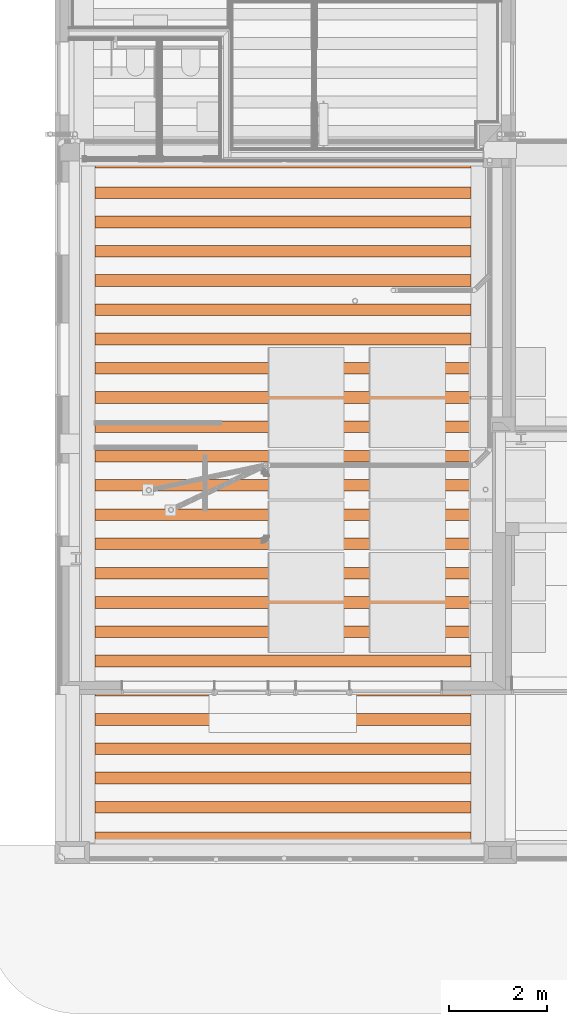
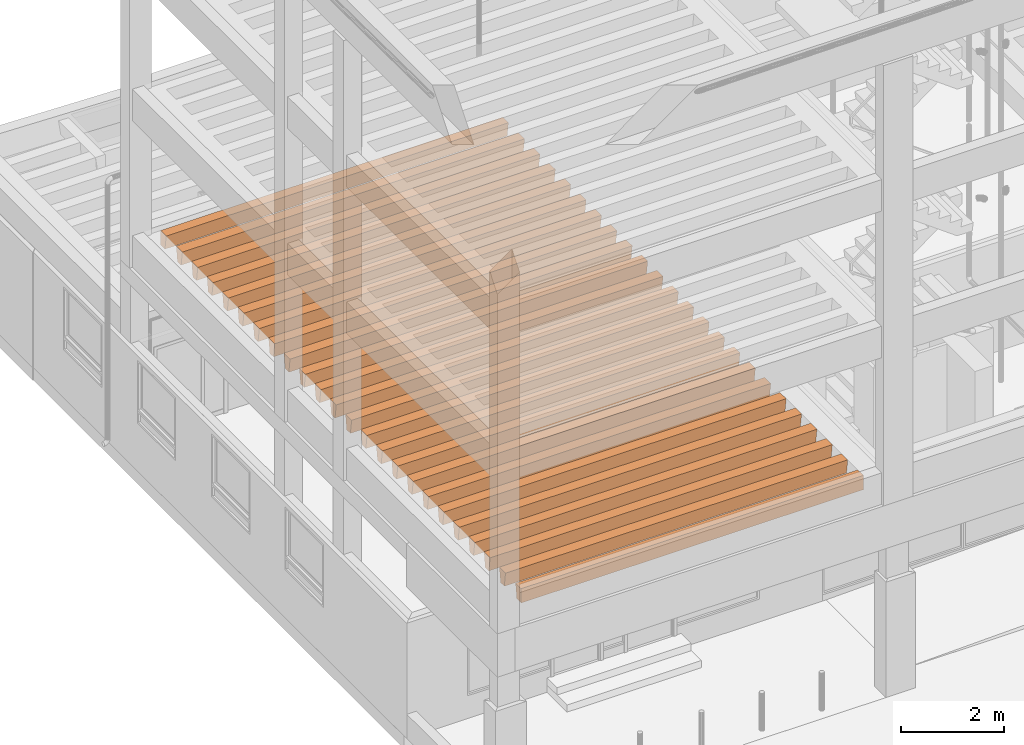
# One storey, part 106 of 108: 1 proxy.
"""IFC2X3 building model written with IfcOpenShell, lengths in metres."""

from ifc_helpers import new_model, entity, si_unit, converted_unit, derived_unit, money_unit, direction, frame, origin_with_axes, place, context, subcontext, project, spatial, faceted_brep, element, save


model = new_model("IFC2X3")

# Units and contexts
model_context = context("Model", 3, precision=1e-05, world=origin_with_axes(), true_north=direction((0.0, 1.0)))
body_context = subcontext(model_context, "Body", "Model", "MODEL_VIEW", scale=1.0)
ifc_project = project(units=[si_unit("LENGTHUNIT", "METRE"), si_unit("AREAUNIT", "SQUARE_METRE"), si_unit("VOLUMEUNIT", "CUBIC_METRE"), si_unit("ABSORBEDDOSEUNIT", "GRAY"), si_unit("AMOUNTOFSUBSTANCEUNIT", "MOLE"), si_unit("DOSEEQUIVALENTUNIT", "SIEVERT"), si_unit("ELECTRICCAPACITANCEUNIT", "FARAD"), si_unit("ELECTRICCHARGEUNIT", "COULOMB"), si_unit("ELECTRICCONDUCTANCEUNIT", "SIEMENS"), si_unit("ELECTRICCURRENTUNIT", "AMPERE"), si_unit("ELECTRICRESISTANCEUNIT", "OHM"), si_unit("ELECTRICVOLTAGEUNIT", "VOLT"), si_unit("ENERGYUNIT", "JOULE"), si_unit("FORCEUNIT", "NEWTON"), si_unit("FREQUENCYUNIT", "HERTZ"), si_unit("ILLUMINANCEUNIT", "LUX"), si_unit("INDUCTANCEUNIT", "HENRY"), si_unit("LUMINOUSFLUXUNIT", "LUMEN"), si_unit("LUMINOUSINTENSITYUNIT", "CANDELA"), si_unit("MAGNETICFLUXDENSITYUNIT", "TESLA"), si_unit("MAGNETICFLUXUNIT", "WEBER"), si_unit("MASSUNIT", "GRAM"), converted_unit("PLANEANGLEUNIT", "degree", entity("IfcReal", 0.0174532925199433), si_unit("PLANEANGLEUNIT", "RADIAN"), dimensions=[0, 0, 0, 0, 0, 0, 0]), si_unit("POWERUNIT", "WATT"), si_unit("PRESSUREUNIT", "PASCAL"), si_unit("RADIOACTIVITYUNIT", "BECQUEREL"), si_unit("SOLIDANGLEUNIT", "STERADIAN"), si_unit("THERMODYNAMICTEMPERATUREUNIT", "KELVIN"), si_unit("TIMEUNIT", "SECOND"), derived_unit("ACCELERATIONUNIT", [(si_unit("LENGTHUNIT", "METRE"), 1), (si_unit("TIMEUNIT", "SECOND"), -2)]), derived_unit("ANGULARVELOCITYUNIT", [(converted_unit("PLANEANGLEUNIT", "degree", entity("IfcReal", 0.0174532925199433), si_unit("PLANEANGLEUNIT", "RADIAN"), dimensions=[0, 0, 0, 0, 0, 0, 0]), 1), (si_unit("TIMEUNIT", "SECOND"), -1)]), derived_unit("CURVATUREUNIT", [(converted_unit("PLANEANGLEUNIT", "degree", entity("IfcReal", 0.0174532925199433), si_unit("PLANEANGLEUNIT", "RADIAN"), dimensions=[0, 0, 0, 0, 0, 0, 0]), 1), (si_unit("LENGTHUNIT", "METRE"), -1)]), derived_unit("DYNAMICVISCOSITYUNIT", [(si_unit("PRESSUREUNIT", "PASCAL"), 1), (si_unit("TIMEUNIT", "SECOND"), 1)]), derived_unit("HEATFLUXDENSITYUNIT", [(si_unit("POWERUNIT", "WATT"), 1), (si_unit("LENGTHUNIT", "METRE"), -2)]), derived_unit("HEATINGVALUEUNIT", [(si_unit("ENERGYUNIT", "JOULE"), 1), (si_unit("MASSUNIT", "GRAM"), -1)]), derived_unit("INTEGERCOUNTRATEUNIT", [(si_unit("TIMEUNIT", "SECOND"), -1)]), derived_unit("IONCONCENTRATIONUNIT", [(si_unit("MASSUNIT", "GRAM"), 1), (si_unit("VOLUMEUNIT", "CUBIC_METRE"), -1)]), derived_unit("ISOTHERMALMOISTURECAPACITYUNIT", [(si_unit("VOLUMEUNIT", "CUBIC_METRE"), 1), (si_unit("MASSUNIT", "GRAM"), -1)]), derived_unit("KINEMATICVISCOSITYUNIT", [(si_unit("AREAUNIT", "SQUARE_METRE"), 1), (si_unit("TIMEUNIT", "SECOND"), -1)]), derived_unit("LINEARFORCEUNIT", [(si_unit("FORCEUNIT", "NEWTON"), 1), (si_unit("LENGTHUNIT", "METRE"), -1)]), derived_unit("LINEARMOMENTUNIT", [(si_unit("FORCEUNIT", "NEWTON"), 1), (si_unit("LENGTHUNIT", "METRE"), -1)]), derived_unit("LINEARSTIFFNESSUNIT", [(si_unit("FORCEUNIT", "NEWTON"), 1), (si_unit("LENGTHUNIT", "METRE"), -1)]), derived_unit("LINEARVELOCITYUNIT", [(si_unit("LENGTHUNIT", "METRE"), 1), (si_unit("TIMEUNIT", "SECOND"), -1)]), derived_unit("LUMINOUSINTENSITYDISTRIBUTIONUNIT", [(si_unit("LUMINOUSINTENSITYUNIT", "CANDELA"), 1), (si_unit("LUMINOUSFLUXUNIT", "LUMEN"), -1)]), derived_unit("MASSDENSITYUNIT", [(si_unit("MASSUNIT", "GRAM"), 1), (si_unit("VOLUMEUNIT", "CUBIC_METRE"), -1)]), derived_unit("MASSFLOWRATEUNIT", [(si_unit("MASSUNIT", "GRAM"), 1), (si_unit("TIMEUNIT", "SECOND"), -1)]), derived_unit("MASSPERLENGTHUNIT", [(si_unit("MASSUNIT", "GRAM"), 1), (si_unit("LENGTHUNIT", "METRE"), -1)]), derived_unit("MODULUSOFELASTICITYUNIT", [(si_unit("FORCEUNIT", "NEWTON"), 1), (si_unit("AREAUNIT", "SQUARE_METRE"), -1)]), derived_unit("MODULUSOFLINEARSUBGRADEREACTIONUNIT", [(si_unit("FORCEUNIT", "NEWTON"), 1), (si_unit("LENGTHUNIT", "METRE"), -2)]), derived_unit("MODULUSOFROTATIONALSUBGRADEREACTIONUNIT", [(si_unit("FORCEUNIT", "NEWTON"), 1), (si_unit("LENGTHUNIT", "METRE"), 1)]), derived_unit("MODULUSOFSUBGRADEREACTIONUNIT", [(si_unit("FORCEUNIT", "NEWTON"), 1), (si_unit("VOLUMEUNIT", "CUBIC_METRE"), -1)]), derived_unit("MOISTUREDIFFUSIVITYUNIT", [(si_unit("VOLUMEUNIT", "CUBIC_METRE"), 1), (si_unit("TIMEUNIT", "SECOND"), -1)]), derived_unit("MOLECULARWEIGHTUNIT", [(si_unit("MASSUNIT", "GRAM"), 1), (si_unit("AMOUNTOFSUBSTANCEUNIT", "MOLE"), -1)]), derived_unit("PLANARFORCEUNIT", [(si_unit("FORCEUNIT", "NEWTON"), 1), (si_unit("LENGTHUNIT", "METRE"), -2)]), derived_unit("ROTATIONALFREQUENCYUNIT", [(si_unit("TIMEUNIT", "SECOND"), -1)]), derived_unit("ROTATIONALMASSUNIT", [(si_unit("MASSUNIT", "GRAM"), 1), (si_unit("LENGTHUNIT", "METRE"), 2)]), derived_unit("ROTATIONALSTIFFNESSUNIT", [(si_unit("FORCEUNIT", "NEWTON"), 1), (si_unit("LENGTHUNIT", "METRE"), 1), (converted_unit("PLANEANGLEUNIT", "degree", entity("IfcReal", 0.0174532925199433), si_unit("PLANEANGLEUNIT", "RADIAN"), dimensions=[0, 0, 0, 0, 0, 0, 0]), -1)]), derived_unit("SECTIONAREAINTEGRALUNIT", [(si_unit("LENGTHUNIT", "METRE"), 5)]), derived_unit("SECTIONMODULUSUNIT", [(si_unit("LENGTHUNIT", "METRE"), 3)]), derived_unit("SHEARMODULUSUNIT", [(si_unit("FORCEUNIT", "NEWTON"), 1), (si_unit("AREAUNIT", "SQUARE_METRE"), -1)]), derived_unit("SOUNDPOWERUNIT", [(si_unit("ENERGYUNIT", "JOULE"), 1), (si_unit("TIMEUNIT", "SECOND"), -1)]), derived_unit("SPECIFICHEATCAPACITYUNIT", [(si_unit("FORCEUNIT", "NEWTON"), 1), (si_unit("MASSUNIT", "GRAM"), -1), (si_unit("THERMODYNAMICTEMPERATUREUNIT", "KELVIN"), -1)]), derived_unit("TEMPERATUREGRADIENTUNIT", [(si_unit("THERMODYNAMICTEMPERATUREUNIT", "KELVIN"), 1), (si_unit("LENGTHUNIT", "METRE"), -1)]), derived_unit("THERMALADMITTANCEUNIT", [(si_unit("POWERUNIT", "WATT"), 1), (si_unit("AREAUNIT", "SQUARE_METRE"), -1), (si_unit("THERMODYNAMICTEMPERATUREUNIT", "KELVIN"), -1)]), derived_unit("THERMALCONDUCTANCEUNIT", [(si_unit("POWERUNIT", "WATT"), 1), (si_unit("LENGTHUNIT", "METRE"), -1), (si_unit("THERMODYNAMICTEMPERATUREUNIT", "KELVIN"), -1)]), derived_unit("THERMALEXPANSIONCOEFFICIENTUNIT", [(si_unit("THERMODYNAMICTEMPERATUREUNIT", "KELVIN"), -1)]), derived_unit("THERMALRESISTANCEUNIT", [(si_unit("AREAUNIT", "SQUARE_METRE"), 1), (si_unit("POWERUNIT", "WATT"), -1)]), derived_unit("THERMALTRANSMITTANCEUNIT", [(si_unit("POWERUNIT", "WATT"), 1), (si_unit("AREAUNIT", "SQUARE_METRE"), -1), (si_unit("THERMODYNAMICTEMPERATUREUNIT", "KELVIN"), -1)]), derived_unit("TORQUEUNIT", [(si_unit("FORCEUNIT", "NEWTON"), 1), (si_unit("LENGTHUNIT", "METRE"), 1)]), derived_unit("VAPORPERMEABILITYUNIT", [(si_unit("MASSUNIT", "GRAM"), 1), (si_unit("TIMEUNIT", "SECOND"), -1)]), derived_unit("VOLUMETRICFLOWRATEUNIT", [(si_unit("VOLUMEUNIT", "CUBIC_METRE"), 1), (si_unit("TIMEUNIT", "SECOND"), -1)]), derived_unit("WARPINGCONSTANTUNIT", [(si_unit("LENGTHUNIT", "METRE"), 6)]), derived_unit("WARPINGMOMENTUNIT", [(si_unit("FORCEUNIT", "NEWTON"), 1), (si_unit("LENGTHUNIT", "METRE"), 2)]), money_unit("GBP")], contexts=[model_context])

# Site, building, storey
site_placement = place(None, origin_with_axes())
site = spatial("IfcSite", under=ifc_project, at=site_placement, Name="Site", CompositionType="ELEMENT")
building_placement = place(site_placement, origin_with_axes())
building = spatial("IfcBuilding", under=site, at=building_placement, Name="Building01", CompositionType="ELEMENT")
storey_placement = place(building_placement, origin_with_axes())
storey = spatial("IfcBuildingStorey", under=building, at=storey_placement, Name="GF", CompositionType="ELEMENT", Elevation=0.0)

# Proxy
proxy_placement = place(storey_placement, frame((4.6725, 7.45, 4.81), z_axis=(0.0, 0.0, 1.0), x_axis=(1.0, 0.0, 0.0)))
element("IfcBuildingElementProxy", 1, at=proxy_placement, inside=storey, context=body_context, shape_type="Brep", body=[
    faceted_brep([(-3.8525, -7.03, -0.17), (3.8525, -7.03, -0.17), (3.8525, -7.03, 0.17), (-3.8525, -7.03, 0.17), (-3.8525, -6.858571, -0.17), (3.8525, -6.858571, -0.17), (-3.8525, -6.81, 0.17), (3.8525, -6.81, 0.17)], [[[0, 1, 2, 3]], [[4, 5, 1, 0]], [[6, 7, 5, 4]], [[3, 2, 7, 6]], [[1, 5, 7, 2]], [[3, 6, 4, 0]]]),
    faceted_brep([(-3.8525, 7.03, 0.17), (3.8525, 7.03, 0.17), (3.8525, 7.03, -0.17), (-3.8525, 7.03, -0.17), (-3.8525, 6.81, 0.17), (3.8525, 6.81, 0.17), (-3.8525, 6.858572, -0.17), (3.8525, 6.858572, -0.17)], [[[0, 1, 2, 3]], [[4, 5, 1, 0]], [[6, 7, 5, 4]], [[3, 2, 7, 6]], [[1, 5, 7, 2]], [[3, 6, 4, 0]]]),
    faceted_brep([(-3.8525, 5.028572, -0.17), (3.8525, 5.028572, -0.17), (3.8525, 4.98, 0.17), (-3.8525, 4.98, 0.17), (-3.8525, 5.171429, -0.17), (3.8525, 5.171429, -0.17), (-3.8525, 5.22, 0.17), (3.8525, 5.22, 0.17)], [[[0, 1, 2, 3]], [[4, 5, 1, 0]], [[6, 7, 5, 4]], [[3, 2, 7, 6]], [[1, 5, 7, 2]], [[3, 6, 4, 0]]]),
    faceted_brep([(-3.8525, 4.428572, -0.17), (3.8525, 4.428572, -0.17), (3.8525, 4.38, 0.17), (-3.8525, 4.38, 0.17), (-3.8525, 4.571429, -0.17), (3.8525, 4.571429, -0.17), (-3.8525, 4.62, 0.17), (3.8525, 4.62, 0.17)], [[[0, 1, 2, 3]], [[4, 5, 1, 0]], [[6, 7, 5, 4]], [[3, 2, 7, 6]], [[1, 5, 7, 2]], [[3, 6, 4, 0]]]),
    faceted_brep([(-3.8525, 6.228572, -0.17), (3.8525, 6.228572, -0.17), (3.8525, 6.18, 0.17), (-3.8525, 6.18, 0.17), (-3.8525, 6.371429, -0.17), (3.8525, 6.371429, -0.17), (-3.8525, 6.42, 0.17), (3.8525, 6.42, 0.17)], [[[0, 1, 2, 3]], [[4, 5, 1, 0]], [[6, 7, 5, 4]], [[3, 2, 7, 6]], [[1, 5, 7, 2]], [[3, 6, 4, 0]]]),
    faceted_brep([(-3.8525, 5.628572, -0.17), (3.8525, 5.628572, -0.17), (3.8525, 5.58, 0.17), (-3.8525, 5.58, 0.17), (-3.8525, 5.771429, -0.17), (3.8525, 5.771429, -0.17), (-3.8525, 5.82, 0.17), (3.8525, 5.82, 0.17)], [[[0, 1, 2, 3]], [[4, 5, 1, 0]], [[6, 7, 5, 4]], [[3, 2, 7, 6]], [[1, 5, 7, 2]], [[3, 6, 4, 0]]]),
    faceted_brep([(-3.8525, 3.228572, -0.17), (3.8525, 3.228572, -0.17), (3.8525, 3.18, 0.17), (-3.8525, 3.18, 0.17), (-3.8525, 3.371429, -0.17), (3.8525, 3.371429, -0.17), (-3.8525, 3.42, 0.17), (3.8525, 3.42, 0.17)], [[[0, 1, 2, 3]], [[4, 5, 1, 0]], [[6, 7, 5, 4]], [[3, 2, 7, 6]], [[1, 5, 7, 2]], [[3, 6, 4, 0]]]),
    faceted_brep([(-3.8525, 2.628572, -0.17), (3.8525, 2.628572, -0.17), (3.8525, 2.58, 0.17), (-3.8525, 2.58, 0.17), (-3.8525, 2.771429, -0.17), (3.8525, 2.771429, -0.17), (-3.8525, 2.82, 0.17), (3.8525, 2.82, 0.17)], [[[0, 1, 2, 3]], [[4, 5, 1, 0]], [[6, 7, 5, 4]], [[3, 2, 7, 6]], [[1, 5, 7, 2]], [[3, 6, 4, 0]]]),
    faceted_brep([(-3.8525, 3.828572, -0.17), (3.8525, 3.828572, -0.17), (3.8525, 3.78, 0.17), (-3.8525, 3.78, 0.17), (-3.8525, 3.971429, -0.17), (3.8525, 3.971429, -0.17), (-3.8525, 4.02, 0.17), (3.8525, 4.02, 0.17)], [[[0, 1, 2, 3]], [[4, 5, 1, 0]], [[6, 7, 5, 4]], [[3, 2, 7, 6]], [[1, 5, 7, 2]], [[3, 6, 4, 0]]]),
    faceted_brep([(-3.8525, 1.428572, -0.17), (3.8525, 1.428572, -0.17), (3.8525, 1.38, 0.17), (-3.8525, 1.38, 0.17), (-3.8525, 1.571429, -0.17), (3.8525, 1.571429, -0.17), (-3.8525, 1.62, 0.17), (3.8525, 1.62, 0.17)], [[[0, 1, 2, 3]], [[4, 5, 1, 0]], [[6, 7, 5, 4]], [[3, 2, 7, 6]], [[1, 5, 7, 2]], [[3, 6, 4, 0]]]),
    faceted_brep([(-3.8525, 0.828572, -0.17), (3.8525, 0.828572, -0.17), (3.8525, 0.78, 0.17), (-3.8525, 0.78, 0.17), (-3.8525, 0.971429, -0.17), (3.8525, 0.971429, -0.17), (-3.8525, 1.02, 0.17), (3.8525, 1.02, 0.17)], [[[0, 1, 2, 3]], [[4, 5, 1, 0]], [[6, 7, 5, 4]], [[3, 2, 7, 6]], [[1, 5, 7, 2]], [[3, 6, 4, 0]]]),
    faceted_brep([(-3.8525, 2.028572, -0.17), (3.8525, 2.028572, -0.17), (3.8525, 1.98, 0.17), (-3.8525, 1.98, 0.17), (-3.8525, 2.171429, -0.17), (3.8525, 2.171429, -0.17), (-3.8525, 2.22, 0.17), (3.8525, 2.22, 0.17)], [[[0, 1, 2, 3]], [[4, 5, 1, 0]], [[6, 7, 5, 4]], [[3, 2, 7, 6]], [[1, 5, 7, 2]], [[3, 6, 4, 0]]]),
    faceted_brep([(-3.8525, -0.371428, -0.17), (3.8525, -0.371428, -0.17), (3.8525, -0.42, 0.17), (-3.8525, -0.42, 0.17), (-3.8525, -0.228571, -0.17), (3.8525, -0.228571, -0.17), (-3.8525, -0.18, 0.17), (3.8525, -0.18, 0.17)], [[[0, 1, 2, 3]], [[4, 5, 1, 0]], [[6, 7, 5, 4]], [[3, 2, 7, 6]], [[1, 5, 7, 2]], [[3, 6, 4, 0]]]),
    faceted_brep([(-3.8525, -0.971428, -0.17), (3.8525, -0.971428, -0.17), (3.8525, -1.02, 0.17), (-3.8525, -1.02, 0.17), (-3.8525, -0.828571, -0.17), (3.8525, -0.828571, -0.17), (-3.8525, -0.78, 0.17), (3.8525, -0.78, 0.17)], [[[0, 1, 2, 3]], [[4, 5, 1, 0]], [[6, 7, 5, 4]], [[3, 2, 7, 6]], [[1, 5, 7, 2]], [[3, 6, 4, 0]]]),
    faceted_brep([(-3.8525, 0.228572, -0.17), (3.8525, 0.228572, -0.17), (3.8525, 0.18, 0.17), (-3.8525, 0.18, 0.17), (-3.8525, 0.371429, -0.17), (3.8525, 0.371429, -0.17), (-3.8525, 0.42, 0.17), (3.8525, 0.42, 0.17)], [[[0, 1, 2, 3]], [[4, 5, 1, 0]], [[6, 7, 5, 4]], [[3, 2, 7, 6]], [[1, 5, 7, 2]], [[3, 6, 4, 0]]]),
    faceted_brep([(-3.8525, -2.171428, -0.17), (3.8525, -2.171428, -0.17), (3.8525, -2.22, 0.17), (-3.8525, -2.22, 0.17), (-3.8525, -2.028571, -0.17), (3.8525, -2.028571, -0.17), (-3.8525, -1.98, 0.17), (3.8525, -1.98, 0.17)], [[[0, 1, 2, 3]], [[4, 5, 1, 0]], [[6, 7, 5, 4]], [[3, 2, 7, 6]], [[1, 5, 7, 2]], [[3, 6, 4, 0]]]),
    faceted_brep([(-3.8525, -2.771428, -0.17), (3.8525, -2.771428, -0.17), (3.8525, -2.82, 0.17), (-3.8525, -2.82, 0.17), (-3.8525, -2.628571, -0.17), (3.8525, -2.628571, -0.17), (-3.8525, -2.58, 0.17), (3.8525, -2.58, 0.17)], [[[0, 1, 2, 3]], [[4, 5, 1, 0]], [[6, 7, 5, 4]], [[3, 2, 7, 6]], [[1, 5, 7, 2]], [[3, 6, 4, 0]]]),
    faceted_brep([(-3.8525, -1.571428, -0.17), (3.8525, -1.571428, -0.17), (3.8525, -1.62, 0.17), (-3.8525, -1.62, 0.17), (-3.8525, -1.428571, -0.17), (3.8525, -1.428571, -0.17), (-3.8525, -1.38, 0.17), (3.8525, -1.38, 0.17)], [[[0, 1, 2, 3]], [[4, 5, 1, 0]], [[6, 7, 5, 4]], [[3, 2, 7, 6]], [[1, 5, 7, 2]], [[3, 6, 4, 0]]]),
    faceted_brep([(-3.8525, -3.971428, -0.17), (3.8525, -3.971428, -0.17), (3.8525, -4.02, 0.17), (-3.8525, -4.02, 0.17), (-3.8525, -3.828571, -0.17), (3.8525, -3.828571, -0.17), (-3.8525, -3.78, 0.17), (3.8525, -3.78, 0.17)], [[[0, 1, 2, 3]], [[4, 5, 1, 0]], [[6, 7, 5, 4]], [[3, 2, 7, 6]], [[1, 5, 7, 2]], [[3, 6, 4, 0]]]),
    faceted_brep([(-3.8525, -4.571428, -0.17), (3.8525, -4.571428, -0.17), (3.8525, -4.62, 0.17), (-3.8525, -4.62, 0.17), (-3.8525, -4.428571, -0.17), (3.8525, -4.428571, -0.17), (-3.8525, -4.38, 0.17), (3.8525, -4.38, 0.17)], [[[0, 1, 2, 3]], [[4, 5, 1, 0]], [[6, 7, 5, 4]], [[3, 2, 7, 6]], [[1, 5, 7, 2]], [[3, 6, 4, 0]]]),
    faceted_brep([(-3.8525, -3.371428, -0.17), (3.8525, -3.371428, -0.17), (3.8525, -3.42, 0.17), (-3.8525, -3.42, 0.17), (-3.8525, -3.228571, -0.17), (3.8525, -3.228571, -0.17), (-3.8525, -3.18, 0.17), (3.8525, -3.18, 0.17)], [[[0, 1, 2, 3]], [[4, 5, 1, 0]], [[6, 7, 5, 4]], [[3, 2, 7, 6]], [[1, 5, 7, 2]], [[3, 6, 4, 0]]]),
    faceted_brep([(-3.8525, -5.771428, -0.17), (3.8525, -5.771428, -0.17), (3.8525, -5.82, 0.17), (-3.8525, -5.82, 0.17), (-3.8525, -5.628571, -0.17), (3.8525, -5.628571, -0.17), (-3.8525, -5.58, 0.17), (3.8525, -5.58, 0.17)], [[[0, 1, 2, 3]], [[4, 5, 1, 0]], [[6, 7, 5, 4]], [[3, 2, 7, 6]], [[1, 5, 7, 2]], [[3, 6, 4, 0]]]),
    faceted_brep([(-3.8525, -6.371428, -0.17), (3.8525, -6.371428, -0.17), (3.8525, -6.42, 0.17), (-3.8525, -6.42, 0.17), (-3.8525, -6.228571, -0.17), (3.8525, -6.228571, -0.17), (-3.8525, -6.18, 0.17), (3.8525, -6.18, 0.17)], [[[0, 1, 2, 3]], [[4, 5, 1, 0]], [[6, 7, 5, 4]], [[3, 2, 7, 6]], [[1, 5, 7, 2]], [[3, 6, 4, 0]]]),
    faceted_brep([(-3.8525, -5.171428, -0.17), (3.8525, -5.171428, -0.17), (3.8525, -5.22, 0.17), (-3.8525, -5.22, 0.17), (-3.8525, -5.028571, -0.17), (3.8525, -5.028571, -0.17), (-3.8525, -4.98, 0.17), (3.8525, -4.98, 0.17)], [[[0, 1, 2, 3]], [[4, 5, 1, 0]], [[6, 7, 5, 4]], [[3, 2, 7, 6]], [[1, 5, 7, 2]], [[3, 6, 4, 0]]]),
])

save(model, "model.ifc")
